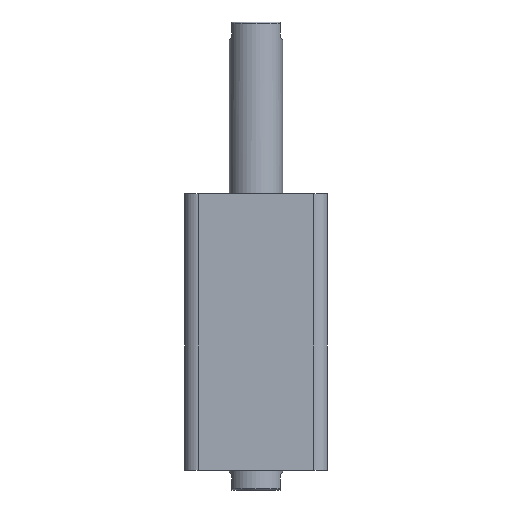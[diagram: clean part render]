
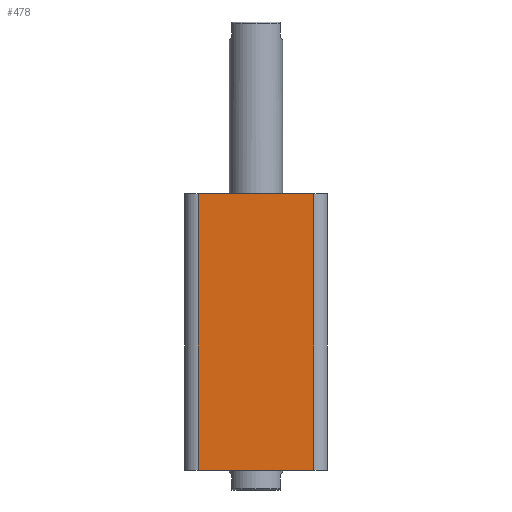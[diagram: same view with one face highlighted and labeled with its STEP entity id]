
A CAD part, front view. The second image highlights one B-rep face of the part: STEP entity #478.
In plain terms, the highlighted planar face has unit normal (0, -1, 0).
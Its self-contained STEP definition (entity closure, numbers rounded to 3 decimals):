
#478 = ADVANCED_FACE ( 'NONE', ( #936 ), #3255, .F. ) ;
#573 = VERTEX_POINT ( 'NONE', #1463 ) ;
#588 = VERTEX_POINT ( 'NONE', #1483 ) ;
#590 = VERTEX_POINT ( 'NONE', #1485 ) ;
#593 = VERTEX_POINT ( 'NONE', #1488 ) ;
#739 = EDGE_LOOP ( 'NONE', ( #2815, #2816, #2817, #2818 ) ) ;
#936 = FACE_OUTER_BOUND ( 'NONE', #739, .T. ) ;
#1258 = LINE ( 'NONE', #3067, #1271 ) ;
#1264 = LINE ( 'NONE', #3077, #1267 ) ;
#1266 = LINE ( 'NONE', #3079, #1269 ) ;
#1267 = VECTOR ( 'NONE', #3078, 1000. ) ;
#1269 = VECTOR ( 'NONE', #3080, 1000. ) ;
#1270 = LINE ( 'NONE', #3082, #1273 ) ;
#1271 = VECTOR ( 'NONE', #3081, 1000. ) ;
#1273 = VECTOR ( 'NONE', #3083, 1000. ) ;
#1463 = CARTESIAN_POINT ( 'NONE',  ( -38., -47., 182. ) ) ;
#1483 = CARTESIAN_POINT ( 'NONE',  ( -38., -47., 0. ) ) ;
#1485 = CARTESIAN_POINT ( 'NONE',  ( 38., -47., 182. ) ) ;
#1488 = CARTESIAN_POINT ( 'NONE',  ( 38., -47., 0. ) ) ;
#2282 = EDGE_CURVE ( 'NONE', #573, #590, #1264, .T. ) ;
#2283 = EDGE_CURVE ( 'NONE', #573, #588, #1266, .T. ) ;
#2284 = EDGE_CURVE ( 'NONE', #588, #593, #1258, .T. ) ;
#2285 = EDGE_CURVE ( 'NONE', #593, #590, #1270, .T. ) ;
#2526 = AXIS2_PLACEMENT_3D ( 'NONE', #3258, #3252, #3251 ) ;
#2815 = ORIENTED_EDGE ( 'NONE', *, *, #2282, .F. ) ;
#2816 = ORIENTED_EDGE ( 'NONE', *, *, #2283, .T. ) ;
#2817 = ORIENTED_EDGE ( 'NONE', *, *, #2284, .T. ) ;
#2818 = ORIENTED_EDGE ( 'NONE', *, *, #2285, .T. ) ;
#3067 = CARTESIAN_POINT ( 'NONE',  ( -47., -47., 0. ) ) ;
#3077 = CARTESIAN_POINT ( 'NONE',  ( -47., -47., 182. ) ) ;
#3078 = DIRECTION ( 'NONE',  ( 1., 0., 0. ) ) ;
#3079 = CARTESIAN_POINT ( 'NONE',  ( -38., -47., 182. ) ) ;
#3080 = DIRECTION ( 'NONE',  ( 0., 0., -1. ) ) ;
#3081 = DIRECTION ( 'NONE',  ( 1., 0., 0. ) ) ;
#3082 = CARTESIAN_POINT ( 'NONE',  ( 38., -47., 182. ) ) ;
#3083 = DIRECTION ( 'NONE',  ( 0., 0., 1. ) ) ;
#3251 = DIRECTION ( 'NONE',  ( 0., 0., 1. ) ) ;
#3252 = DIRECTION ( 'NONE',  ( 0., 1., 0. ) ) ;
#3255 = PLANE ( 'NONE',  #2526 ) ;
#3258 = CARTESIAN_POINT ( 'NONE',  ( -47., -47., 182. ) ) ;
